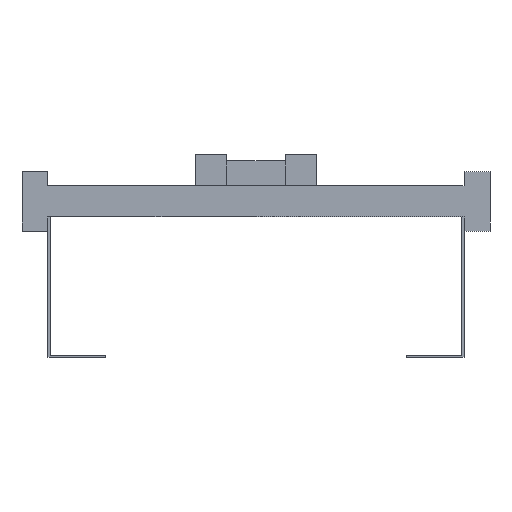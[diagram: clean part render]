
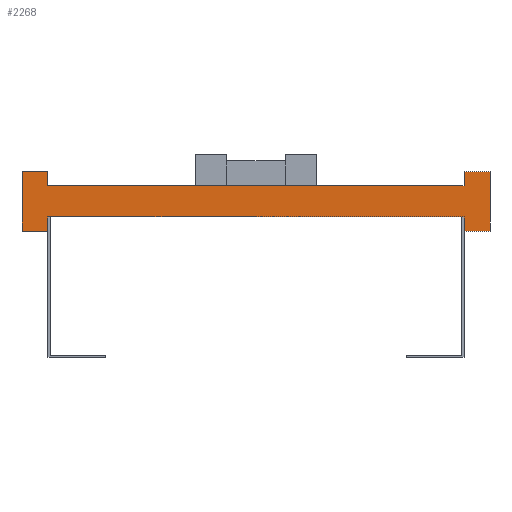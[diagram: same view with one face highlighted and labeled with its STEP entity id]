
A CAD part, front view. The second image highlights one B-rep face of the part: STEP entity #2268.
In plain terms, the highlighted planar face has unit normal (0, -1, 0).
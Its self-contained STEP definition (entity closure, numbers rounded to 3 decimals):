
#1=DIRECTION('',(0.,0.,1.));
#2=VECTOR('',#1,13.5);
#3=CARTESIAN_POINT('',(200.,0.,-28.5));
#4=LINE('',#3,#2);
#5=DIRECTION('',(0.,0.,-1.));
#6=VECTOR('',#5,13.5);
#7=CARTESIAN_POINT('',(-200.,0.,-15.));
#8=LINE('',#7,#6);
#9=DIRECTION('',(-1.,0.,0.));
#10=VECTOR('',#9,25.);
#11=CARTESIAN_POINT('',(-200.,0.,-28.5));
#12=LINE('',#11,#10);
#13=DIRECTION('',(0.,0.,1.));
#14=VECTOR('',#13,57.);
#15=CARTESIAN_POINT('',(-225.,0.,-28.5));
#16=LINE('',#15,#14);
#17=DIRECTION('',(1.,0.,0.));
#18=VECTOR('',#17,25.);
#19=CARTESIAN_POINT('',(-225.,0.,28.5));
#20=LINE('',#19,#18);
#21=DIRECTION('',(0.,0.,-1.));
#22=VECTOR('',#21,13.5);
#23=CARTESIAN_POINT('',(-200.,0.,28.5));
#24=LINE('',#23,#22);
#25=DIRECTION('',(0.,0.,1.));
#26=VECTOR('',#25,13.5);
#27=CARTESIAN_POINT('',(200.,0.,15.));
#28=LINE('',#27,#26);
#29=DIRECTION('',(1.,0.,0.));
#30=VECTOR('',#29,25.);
#31=CARTESIAN_POINT('',(200.,0.,28.5));
#32=LINE('',#31,#30);
#33=DIRECTION('',(0.,0.,-1.));
#34=VECTOR('',#33,57.);
#35=CARTESIAN_POINT('',(225.,0.,28.5));
#36=LINE('',#35,#34);
#37=DIRECTION('',(-1.,0.,0.));
#38=VECTOR('',#37,25.);
#39=CARTESIAN_POINT('',(225.,0.,-28.5));
#40=LINE('',#39,#38);
#1689=DIRECTION('',(1.,0.,0.));
#1690=VECTOR('',#1689,400.);
#1691=CARTESIAN_POINT('',(-200.,0.,-15.));
#1692=LINE('',#1691,#1690);
#1701=DIRECTION('',(1.,0.,0.));
#1702=VECTOR('',#1701,400.);
#1703=CARTESIAN_POINT('',(-200.,0.,15.));
#1704=LINE('',#1703,#1702);
#1705=CARTESIAN_POINT('',(-225.,0.,28.5));
#1706=CARTESIAN_POINT('',(-200.,0.,28.5));
#1707=VERTEX_POINT('',#1705);
#1708=VERTEX_POINT('',#1706);
#1709=CARTESIAN_POINT('',(-200.,0.,-28.5));
#1710=CARTESIAN_POINT('',(-225.,0.,-28.5));
#1711=VERTEX_POINT('',#1709);
#1712=VERTEX_POINT('',#1710);
#1713=CARTESIAN_POINT('',(225.,0.,28.5));
#1714=CARTESIAN_POINT('',(225.,0.,-28.5));
#1715=VERTEX_POINT('',#1713);
#1716=VERTEX_POINT('',#1714);
#1717=CARTESIAN_POINT('',(200.,0.,-28.5));
#1718=VERTEX_POINT('',#1717);
#1719=CARTESIAN_POINT('',(200.,0.,28.5));
#1720=VERTEX_POINT('',#1719);
#1737=CARTESIAN_POINT('',(-200.,0.,-15.));
#1739=VERTEX_POINT('',#1737);
#1741=CARTESIAN_POINT('',(-200.,0.,15.));
#1743=VERTEX_POINT('',#1741);
#1745=CARTESIAN_POINT('',(200.,0.,-15.));
#1747=VERTEX_POINT('',#1745);
#1749=CARTESIAN_POINT('',(200.,0.,15.));
#1751=VERTEX_POINT('',#1749);
#2237=CARTESIAN_POINT('',(0.,0.,0.));
#2238=DIRECTION('',(0.,1.,0.));
#2239=DIRECTION('',(1.,0.,0.));
#2240=AXIS2_PLACEMENT_3D('',#2237,#2238,#2239);
#2241=PLANE('',#2240);
#2243=ORIENTED_EDGE('',*,*,#2242,.T.);
#2245=ORIENTED_EDGE('',*,*,#2244,.F.);
#2247=ORIENTED_EDGE('',*,*,#2246,.T.);
#2249=ORIENTED_EDGE('',*,*,#2248,.T.);
#2251=ORIENTED_EDGE('',*,*,#2250,.T.);
#2253=ORIENTED_EDGE('',*,*,#2252,.T.);
#2255=ORIENTED_EDGE('',*,*,#2254,.T.);
#2257=ORIENTED_EDGE('',*,*,#2256,.T.);
#2259=ORIENTED_EDGE('',*,*,#2258,.T.);
#2261=ORIENTED_EDGE('',*,*,#2260,.T.);
#2263=ORIENTED_EDGE('',*,*,#2262,.T.);
#2265=ORIENTED_EDGE('',*,*,#2264,.T.);
#2266=EDGE_LOOP('',(#2243,#2245,#2247,#2249,#2251,#2253,#2255,#2257,#2259,#2261,
#2263,#2265));
#2267=FACE_OUTER_BOUND('',#2266,.F.);
#2268=ADVANCED_FACE('',(#2267),#2241,.F.);
#2242=EDGE_CURVE('',#1718,#1747,#4,.T.);
#2244=EDGE_CURVE('',#1739,#1747,#1692,.T.);
#2246=EDGE_CURVE('',#1739,#1711,#8,.T.);
#2248=EDGE_CURVE('',#1711,#1712,#12,.T.);
#2250=EDGE_CURVE('',#1712,#1707,#16,.T.);
#2252=EDGE_CURVE('',#1707,#1708,#20,.T.);
#2254=EDGE_CURVE('',#1708,#1743,#24,.T.);
#2256=EDGE_CURVE('',#1743,#1751,#1704,.T.);
#2258=EDGE_CURVE('',#1751,#1720,#28,.T.);
#2260=EDGE_CURVE('',#1720,#1715,#32,.T.);
#2262=EDGE_CURVE('',#1715,#1716,#36,.T.);
#2264=EDGE_CURVE('',#1716,#1718,#40,.T.);
